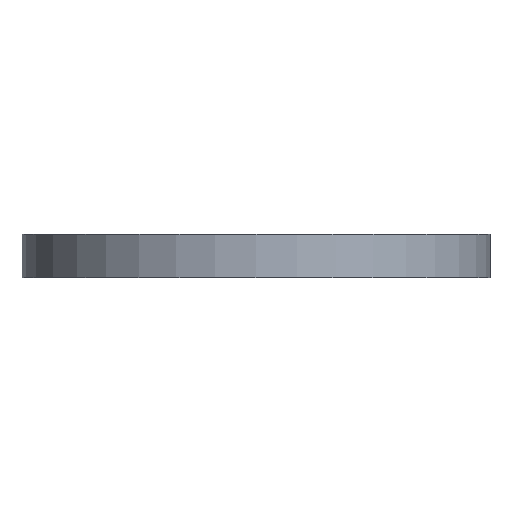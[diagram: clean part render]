
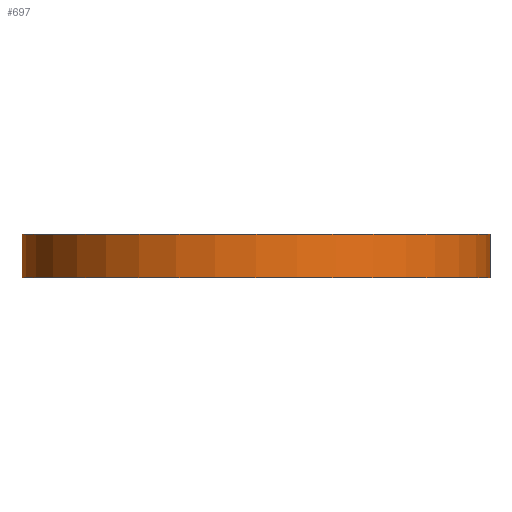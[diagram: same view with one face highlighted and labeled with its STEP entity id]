
A CAD part, front view. The second image highlights one B-rep face of the part: STEP entity #697.
In plain terms, the highlighted cylindrical face has radius 225 mm (diameter 450 mm), a partial arc.
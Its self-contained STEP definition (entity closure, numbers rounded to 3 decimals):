
#93 = CARTESIAN_POINT ( 'NONE',  ( 0., 0., 0. ) ) ;
#94 = DIRECTION ( 'NONE',  ( 0., 0., 1. ) ) ;
#95 = DIRECTION ( 'NONE',  ( 1., 0., 0. ) ) ;
#96 = DIRECTION ( 'NONE',  ( -1., 0., 0. ) ) ;
#97 = DIRECTION ( 'NONE',  ( 0., 0., -1. ) ) ;
#98 = CARTESIAN_POINT ( 'NONE',  ( 0., 0., -42. ) ) ;
#143 = CARTESIAN_POINT ( 'NONE',  ( 225., 0., -42. ) ) ;
#150 = CARTESIAN_POINT ( 'NONE',  ( -225., 0., -42. ) ) ;
#173 = AXIS2_PLACEMENT_3D ( 'NONE', #254, #252, #251 ) ;
#176 = AXIS2_PLACEMENT_3D ( 'NONE', #98, #97, #96 ) ;
#243 = AXIS2_PLACEMENT_3D ( 'NONE', #93, #94, #95 ) ;
#251 = DIRECTION ( 'NONE',  ( 1., 0., 0. ) ) ;
#252 = DIRECTION ( 'NONE',  ( 0., 0., 1. ) ) ;
#254 = CARTESIAN_POINT ( 'NONE',  ( 0., 0., -115. ) ) ;
#255 = CYLINDRICAL_SURFACE ( 'NONE', #173, 225. ) ;
#257 = FACE_OUTER_BOUND ( 'NONE', #561, .T. ) ;
#279 = EDGE_CURVE ( 'NONE', #827, #552, #477, .T. ) ;
#366 = DIRECTION ( 'NONE',  ( 0., 0., 1. ) ) ;
#367 = CARTESIAN_POINT ( 'NONE',  ( -225., 0., -115. ) ) ;
#368 = LINE ( 'NONE', #367, #503 ) ;
#370 = CARTESIAN_POINT ( 'NONE',  ( 225., 0., 0. ) ) ;
#477 = LINE ( 'NONE', #480, #667 ) ;
#479 = DIRECTION ( 'NONE',  ( 0., 0., 1. ) ) ;
#480 = CARTESIAN_POINT ( 'NONE',  ( 225., 0., -115. ) ) ;
#503 = VECTOR ( 'NONE', #366, 1000. ) ;
#552 = VERTEX_POINT ( 'NONE', #370 ) ;
#557 = EDGE_CURVE ( 'NONE', #822, #951, #368, .T. ) ;
#561 = EDGE_LOOP ( 'NONE', ( #996, #997, #1000, #1001 ) ) ;
#663 = CARTESIAN_POINT ( 'NONE',  ( -225., 0., 0. ) ) ;
#667 = VECTOR ( 'NONE', #479, 1000. ) ;
#697 = ADVANCED_FACE ( 'NONE', ( #257 ), #255, .T. ) ;
#798 = CIRCLE ( 'NONE', #176, 225. ) ;
#822 = VERTEX_POINT ( 'NONE', #150 ) ;
#827 = VERTEX_POINT ( 'NONE', #143 ) ;
#859 = EDGE_CURVE ( 'NONE', #827, #822, #798, .T. ) ;
#865 = EDGE_CURVE ( 'NONE', #951, #552, #972, .T. ) ;
#951 = VERTEX_POINT ( 'NONE', #663 ) ;
#972 = CIRCLE ( 'NONE', #243, 225. ) ;
#996 = ORIENTED_EDGE ( 'NONE', *, *, #557, .F. ) ;
#997 = ORIENTED_EDGE ( 'NONE', *, *, #859, .F. ) ;
#1000 = ORIENTED_EDGE ( 'NONE', *, *, #279, .T. ) ;
#1001 = ORIENTED_EDGE ( 'NONE', *, *, #865, .F. ) ;
